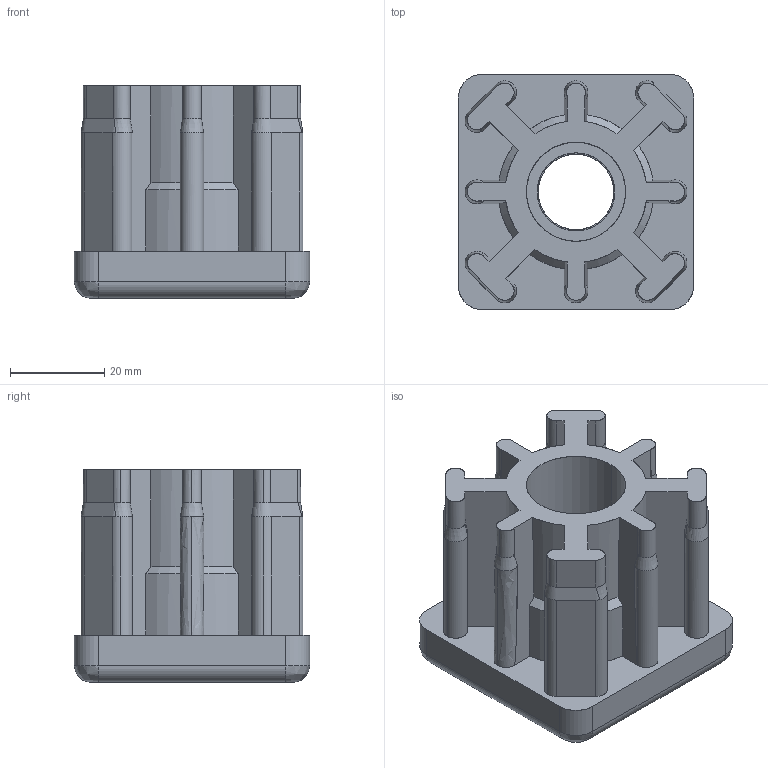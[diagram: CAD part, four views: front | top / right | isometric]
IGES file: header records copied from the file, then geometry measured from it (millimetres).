
Start section: SolidWorks IGES file using analytic representation for surfaces
Global section: file name: Y:\Tecnodin, S.L\Planos Clientes - Documentos\General\PLANOS CLIENTES\3D\-REVISAR-\CONTERAS TECOM\42006850216.IGS; native system: SolidWorks 2018; preprocessor: SolidWorks 2018; author: GerPro; date: 200226.121730; units: millimetre
Bounding box: 49.8 x 49.8 x 45 mm (x, y, z)
Surface area: 21169 mm2 (no closed solid volume)
Topology: 0 solids, 0 shells, 171 faces, 1702 edges, 1702 vertices
Faces by surface type: revolution 88, bspline 83
